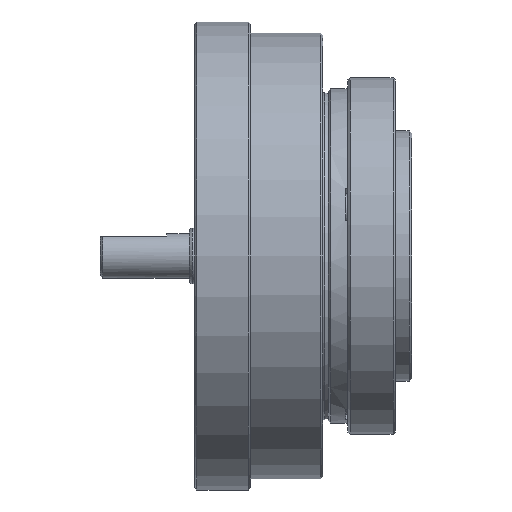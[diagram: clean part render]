
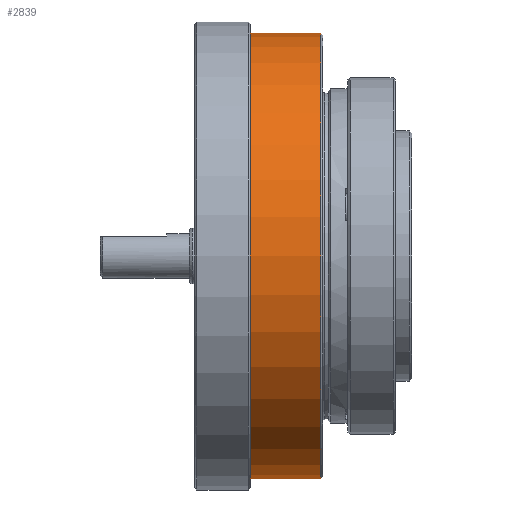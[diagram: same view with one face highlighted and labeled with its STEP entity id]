
A CAD part, front view. The second image highlights one B-rep face of the part: STEP entity #2839.
In plain terms, the highlighted cylindrical face has radius 40 mm (diameter 80 mm), a full revolution.
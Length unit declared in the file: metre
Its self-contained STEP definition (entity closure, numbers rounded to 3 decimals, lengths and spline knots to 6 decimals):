
#1859 = CARTESIAN_POINT ( 'NONE',  ( 0.0186, 0., 0.04 ) ) ;
#2179 = CIRCLE ( 'NONE', #11089, 0.04 ) ;
#2201 = VERTEX_POINT ( 'NONE', #30059 ) ;
#2839 = ADVANCED_FACE ( 'NONE', ( #19991, #4852 ), #29167, .T. ) ;
#3078 = DIRECTION ( 'NONE',  ( 1., 0., 0. ) ) ;
#3084 = EDGE_CURVE ( 'NONE', #2201, #2201, #2179, .T. ) ;
#3651 = CARTESIAN_POINT ( 'NONE',  ( 0.0034, 0., 0. ) ) ;
#4852 = FACE_OUTER_BOUND ( 'NONE', #13948, .T. ) ;
#8667 = AXIS2_PLACEMENT_3D ( 'NONE', #33972, #16628, #28802 ) ;
#11089 = AXIS2_PLACEMENT_3D ( 'NONE', #3651, #3078, #12640 ) ;
#11881 = CIRCLE ( 'NONE', #8667, 0.04 ) ;
#12640 = DIRECTION ( 'NONE',  ( 0., 0., 1. ) ) ;
#13948 = EDGE_LOOP ( 'NONE', ( #36709 ) ) ;
#14023 = CARTESIAN_POINT ( 'NONE',  ( 0.003, 0., 0. ) ) ;
#16628 = DIRECTION ( 'NONE',  ( -1., 0., 0. ) ) ;
#19951 = EDGE_CURVE ( 'NONE', #35721, #35721, #11881, .T. ) ;
#19991 = FACE_OUTER_BOUND ( 'NONE', #37727, .T. ) ;
#24018 = ORIENTED_EDGE ( 'NONE', *, *, #19951, .T. ) ;
#26179 = DIRECTION ( 'NONE',  ( -1., 0., 0. ) ) ;
#28802 = DIRECTION ( 'NONE',  ( 0., 0., 1. ) ) ;
#29167 = CYLINDRICAL_SURFACE ( 'NONE', #38441, 0.04 ) ;
#30059 = CARTESIAN_POINT ( 'NONE',  ( 0.0034, 0., 0.04 ) ) ;
#33972 = CARTESIAN_POINT ( 'NONE',  ( 0.0186, 0., 0. ) ) ;
#35721 = VERTEX_POINT ( 'NONE', #1859 ) ;
#36709 = ORIENTED_EDGE ( 'NONE', *, *, #3084, .T. ) ;
#37727 = EDGE_LOOP ( 'NONE', ( #24018 ) ) ;
#38362 = DIRECTION ( 'NONE',  ( 0., 0., 1. ) ) ;
#38441 = AXIS2_PLACEMENT_3D ( 'NONE', #14023, #26179, #38362 ) ;
